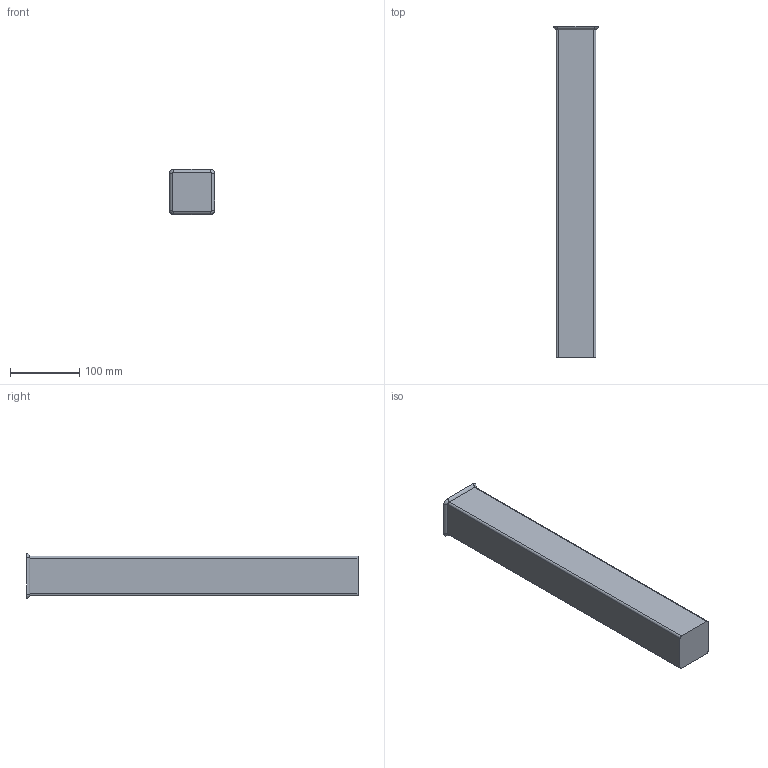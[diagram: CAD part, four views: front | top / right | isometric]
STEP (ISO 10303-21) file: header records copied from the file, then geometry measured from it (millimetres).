
FILE_DESCRIPTION((''),'2;1');
FILE_NAME('1029W7901-A-19-1_AF0','2020-01-08T10:31:33',('mbes'),(''),'CREO PARAMETRIC BY PTC INC, 2018400','CREO PARAMETRIC BY PTC INC, 2018400','');
FILE_SCHEMA(('AUTOMOTIVE_DESIGN { 1 0 10303 214 1 1 1 1 }'));
Length unit declared in the file: millimetre
Products named in the file (1): 1029W7901-A-19-1_AF0
Bounding box: 65.2 x 478.4 x 65.35 mm (x, y, z)
Volume: 1560061.6 mm3; surface area: 115110.5 mm2
Topology: 1 solids, 1 shells, 34 faces, 88 edges, 52 vertices
Faces by surface type: cylinder 14, plane 14, bspline 6
Entity records: 1260 total; most frequent: CARTESIAN_POINT 307, DIRECTION 176, ORIENTED_EDGE 176, EDGE_CURVE 88, COLOUR_RGB 62, AXIS2_PLACEMENT_3D 61, VECTOR 54, LINE 54
